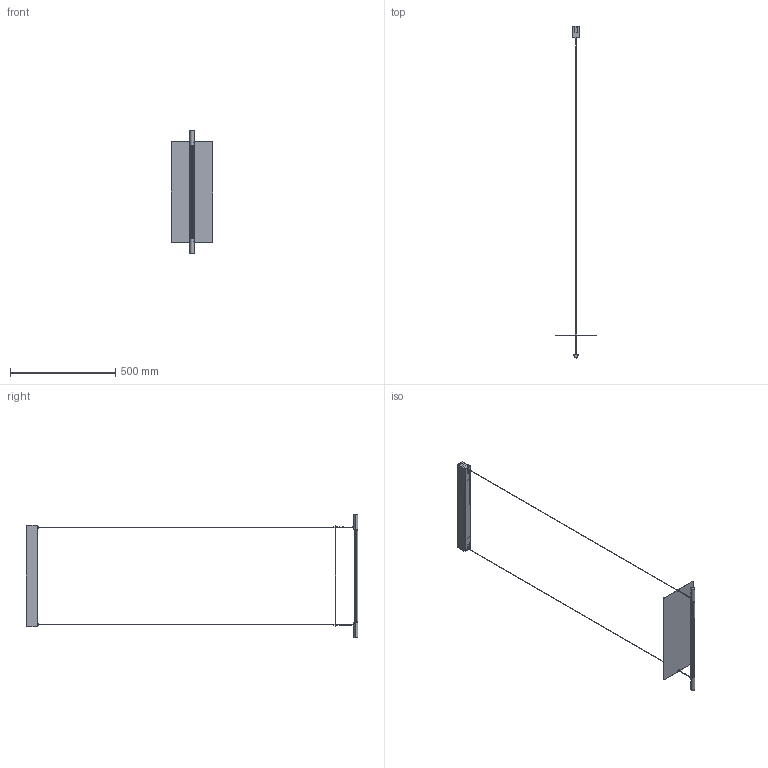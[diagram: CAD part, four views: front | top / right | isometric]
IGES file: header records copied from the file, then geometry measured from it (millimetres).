
Start section: SolidWorks IGES file using analytic representation for surfaces
Global section: file name: C:\SANTACOLE_PDM\Proyectos Catálogo\PROD-P17-012 -- LAMINA\6_Técnico comercial\LAMINA DORADA WEB\3D\Lamina Dorada 45 suspension.IGS; native system: SolidWorks 2021; preprocessor: SolidWorks 2021; author: clara.galimany; date: 230420.151013; units: millimetre
Bounding box: 198.4 x 1572.75 x 587 mm (x, y, z)
Surface area: 586884.3 mm2 (no closed solid volume)
Topology: 0 solids, 0 shells, 573 faces, 6670 edges, 6658 vertices
Faces by surface type: bspline 333, revolution 240
